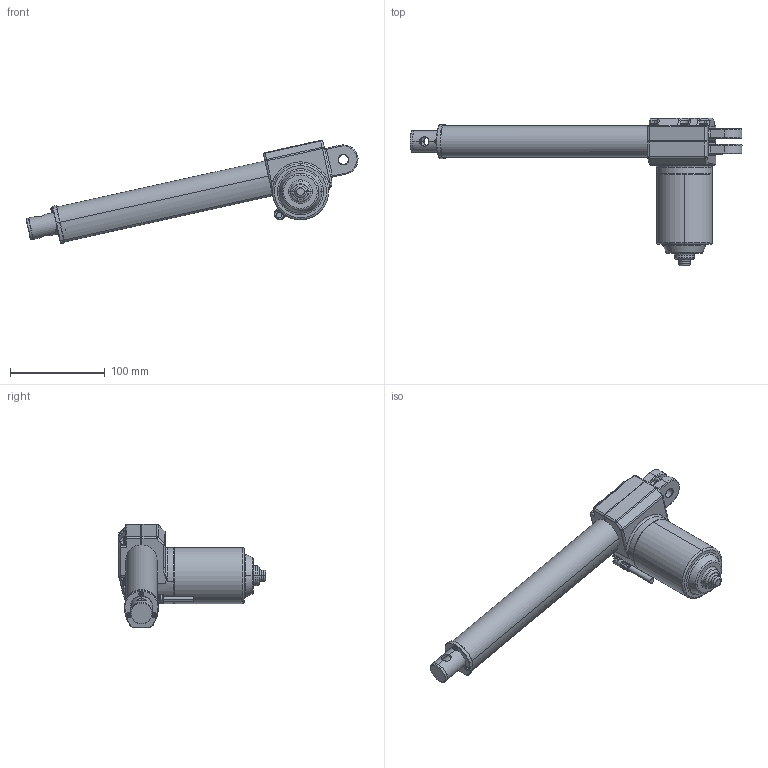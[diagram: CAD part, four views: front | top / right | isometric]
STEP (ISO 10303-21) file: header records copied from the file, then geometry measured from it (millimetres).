
FILE_DESCRIPTION((''),'2;1');
FILE_NAME('ASM0001_ASM','2019-11-08T',('user'),(''),'PRO/ENGINEER BY PARAMETRIC TECHNOLOGY CORPORATION, 2008090','PRO/ENGINEER BY PARAMETRIC TECHNOLOGY CORPORATION, 2008090','');
FILE_SCHEMA(('CONFIG_CONTROL_DESIGN'));
Length unit declared in the file: millimetre
Products named in the file (3): PRT0001; ASM0001_ASM
Assembly tree (2 placements, depth 2):
  ASM0001_ASM
    PRT0001
    ASM0001_ASM
Bounding box: 350.32 x 155.7 x 109.06 mm (x, y, z)
Surface area: 224641.7 mm2 (no closed solid volume)
Topology: 0 solids, 12 shells, 1586 faces, 4144 edges, 2624 vertices
Faces by surface type: plane 887, cylinder 451, torus 131, bspline 69, cone 44, sphere 4
Entity records: 51971 total; most frequent: CARTESIAN_POINT 12971, ORIENTED_EDGE 8254, DIRECTION 8040, EDGE_CURVE 4132, AXIS2_PLACEMENT_3D 2811, VERTEX_POINT 2624, VECTOR 2418, LINE 2418
